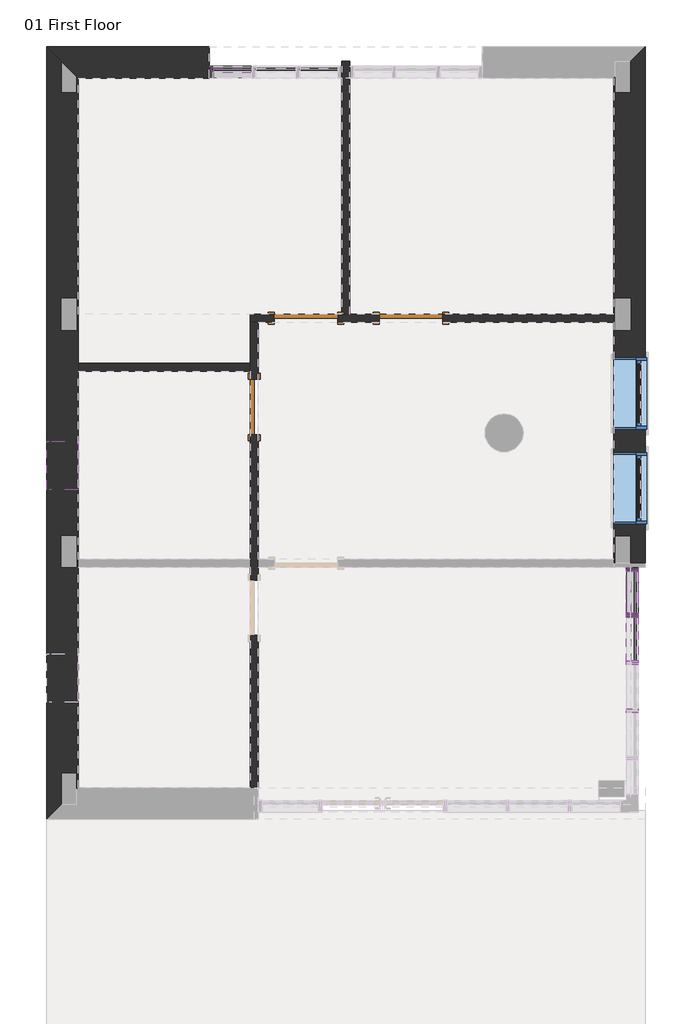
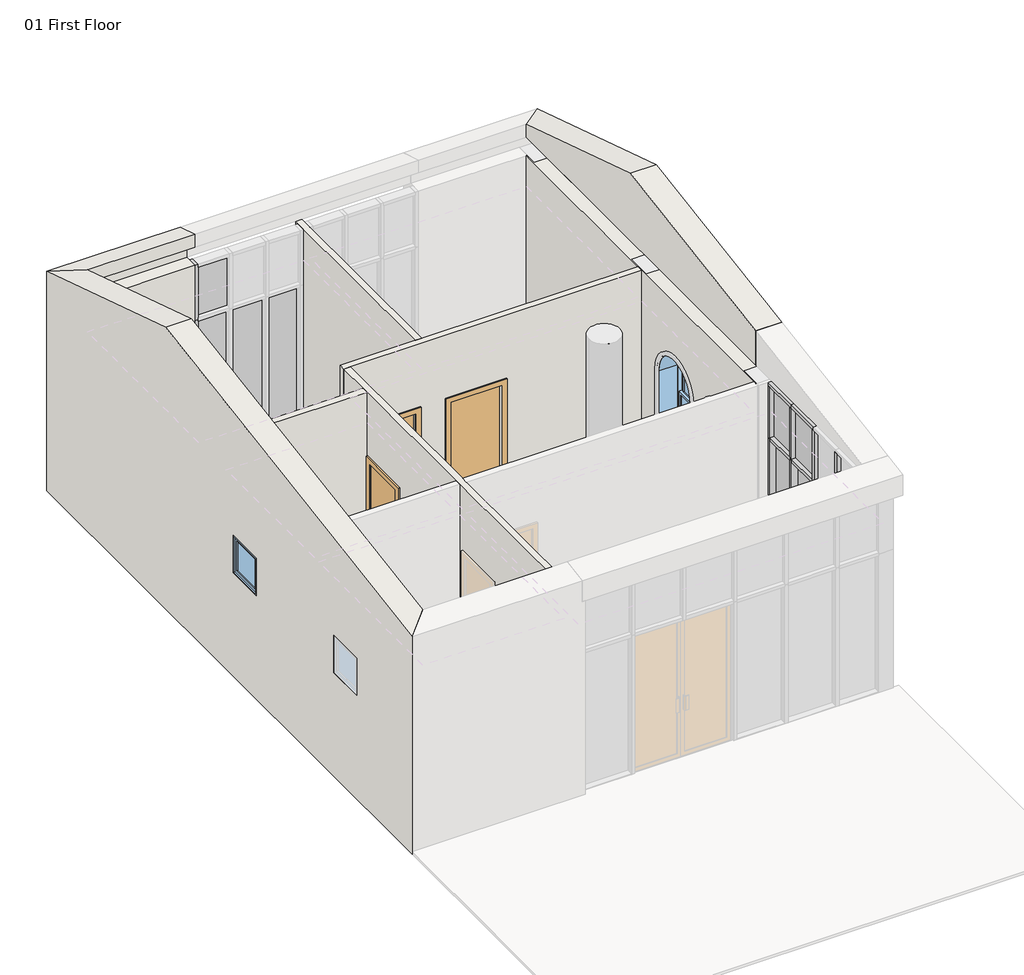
# One storey, part 2 of 3: 14 members, 8 plates, 7 walls, 3 doors, 3 windows.
"""IFC4 building model written with IfcOpenShell, lengths in millimetres."""

from ifc_helpers import new_model, si_unit, frame, origin, place, context, project, spatial, polyline, circle_curve, outline, extrude, faceted_brep, transform, mapped, element, save
from ifc_brep_helpers import plane_surface, revolved_surface, advanced_brep
from components import m_single_flush_0700_x_2100mm_23326b45, m_single_flush_0800_x_2100mm_e1c1bfab, m_single_flush_0800_x_2100mm_5931a049, rectangular_mullion_50_x_150mm_8753ce05, rectangular_mullion_50_x_150mm_f70f74d1, rectangular_mullion_50_x_150mm_f478ca5a, rectangular_mullion_50_x_150mm_324a6438, rectangular_mullion_50_x_150mm_d1e66009, rectangular_mullion_50_x_150mm_35d6a770, rectangular_mullion_50_x_150mm_7a805af3, rectangular_mullion_50_x_150mm_27f82533, rectangular_mullion_50_x_150mm_15dee4e3, rectangular_mullion_50_x_150mm_af0ba744, rectangular_mullion_50_x_150mm_731e338c, system_panel_glazed_5d80e23d, system_panel_glazed_623b0429, system_panel_glazed_a0e57360, system_panel_glazed_11854295, system_panel_solid_e171d4ab, system_panel_solid_37a388a8, system_panel_solid_d4510be5, m_fixed_0610_x_0610mm_08517cb4, m_window_double_hung_arch_head_900_x_1800mm_510cd141

model = new_model("IFC4")

# Units and contexts
model_context = context("Model", 3, world=origin())
ifc_project = project(units=[si_unit("LENGTHUNIT", "METRE", prefix="MILLI")], contexts=[model_context])

# Site, building, storey
site = spatial("IfcSite", under=ifc_project)
building = spatial("IfcBuilding", under=site)
storey = spatial("IfcBuildingStorey", under=building, Name="01 First Floor", Elevation=3500.0)

# Doors
placement = place(None, origin())
m_single_flush_0700_x_2100mm_shape = m_single_flush_0700_x_2100mm_23326b45(model_context)
element("IfcDoor", 1, ObjectType="M_Single-Flush : 0700 x 2100mm", at=placement, inside=storey, context=model_context, shape_type="MappedRepresentation", body=[
    mapped(m_single_flush_0700_x_2100mm_shape, transform((-5882.5407999, 1965.8732706, 3500.0), x_axis=(0.0, 1.0, 0.0), y_axis=(-1.0, 0.0, 0.0), z_axis=(0.0, 0.0, 1.0))),
])
m_single_flush_0800_x_2100mm_shape = m_single_flush_0800_x_2100mm_e1c1bfab(model_context)
element("IfcDoor", 2, ObjectType="M_Single-Flush : 0800 x 2100mm", at=placement, inside=storey, context=model_context, shape_type="MappedRepresentation", body=[
    mapped(m_single_flush_0800_x_2100mm_shape, transform((-3898.1036851, 3087.4461437, 3500.0), x_axis=(-0.9999999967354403, -8.080296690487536e-05, 0.0), y_axis=(8.080296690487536e-05, -0.9999999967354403, 0.0), z_axis=(0.0, 0.0, 1.0))),
])
m_single_flush_0800_x_2100mm_2_shape = m_single_flush_0800_x_2100mm_5931a049(model_context)
element("IfcDoor", 3, ObjectType="M_Single-Flush : 0800 x 2100mm", at=placement, inside=storey, context=model_context, shape_type="MappedRepresentation", body=[
    mapped(m_single_flush_0800_x_2100mm_2_shape, transform((-5227.2000094, 3087.3387487, 3500.0), x_axis=(0.9999999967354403, 8.080296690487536e-05, 0.0), y_axis=(-8.080296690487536e-05, 0.9999999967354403, 0.0), z_axis=(0.0, 0.0, 1.0))),
])

# Members
rectangular_mullion_50_x_150mm_shape = rectangular_mullion_50_x_150mm_8753ce05(model_context)
element("IfcMember", 4, ObjectType="Rectangular Mullion : 50 x 150mm", at=placement, inside=storey, context=model_context, shape_type="MappedRepresentation", body=[
    mapped(rectangular_mullion_50_x_150mm_shape, transform((-6447.5407999, 6199.2898352, 5800.0), x_axis=(-1.0, 0.0, 0.0), y_axis=(0.0, -1.0, 0.0), z_axis=(0.0, 0.0, 1.0))),
])
rectangular_mullion_50_x_150mm_2_shape = rectangular_mullion_50_x_150mm_f70f74d1(model_context)
element("IfcMember", 5, ObjectType="Rectangular Mullion : 50 x 150mm", at=placement, inside=storey, context=model_context, shape_type="MappedRepresentation", body=[
    mapped(rectangular_mullion_50_x_150mm_2_shape, transform((-1102.5407999, -666.7101649, 3500.0), x_axis=(0.0, 1.0, 0.0), y_axis=(1.0, 0.0, 0.0), z_axis=(0.0, 0.0, -1.0))),
])
element("IfcMember", 6, ObjectType="Rectangular Mullion : 50 x 150mm", at=placement, inside=storey, context=model_context, shape_type="MappedRepresentation", body=[
    mapped(rectangular_mullion_50_x_150mm_shape, transform((-1102.5407999, -62.7101648, 3500.0), x_axis=(0.0, 1.0, 0.0), y_axis=(1.0, 0.0, 0.0), z_axis=(0.0, 0.0, -1.0))),
])
rectangular_mullion_50_x_150mm_3_shape = rectangular_mullion_50_x_150mm_f478ca5a(model_context)
element("IfcMember", 7, ObjectType="Rectangular Mullion : 50 x 150mm", at=placement, inside=storey, context=model_context, shape_type="MappedRepresentation", body=[
    mapped(rectangular_mullion_50_x_150mm_3_shape, transform((-1102.5407999, -1874.7101647, 5800.0), x_axis=(0.0, 1.0, 0.0), y_axis=(1.0, 0.0, 0.0), z_axis=(0.0, 0.0, -1.0))),
])
element("IfcMember", 8, ObjectType="Rectangular Mullion : 50 x 150mm", at=placement, inside=storey, context=model_context, shape_type="MappedRepresentation", body=[
    mapped(rectangular_mullion_50_x_150mm_3_shape, transform((-1102.5407999, -1270.7101648, 5800.0), x_axis=(0.0, 1.0, 0.0), y_axis=(1.0, 0.0, 0.0), z_axis=(0.0, 0.0, -1.0))),
])
element("IfcMember", 9, ObjectType="Rectangular Mullion : 50 x 150mm", at=placement, inside=storey, context=model_context, shape_type="MappedRepresentation", body=[
    mapped(rectangular_mullion_50_x_150mm_3_shape, transform((-1102.5407999, -666.7101649, 5800.0), x_axis=(0.0, 1.0, 0.0), y_axis=(1.0, 0.0, 0.0), z_axis=(0.0, 0.0, -1.0))),
])
rectangular_mullion_50_x_150mm_4_shape = rectangular_mullion_50_x_150mm_324a6438(model_context)
element("IfcMember", 10, ObjectType="Rectangular Mullion : 50 x 150mm", at=placement, inside=storey, context=model_context, shape_type="MappedRepresentation", body=[
    mapped(rectangular_mullion_50_x_150mm_4_shape, transform((-1102.5407999, -62.7101648, 5800.0), x_axis=(0.0, 1.0, 0.0), y_axis=(1.0, 0.0, 0.0), z_axis=(0.0, 0.0, -1.0))),
])
rectangular_mullion_50_x_150mm_5_shape = rectangular_mullion_50_x_150mm_d1e66009(model_context)
element("IfcMember", 11, ObjectType="Rectangular Mullion : 50 x 150mm", at=placement, inside=storey, context=model_context, shape_type="MappedRepresentation", body=[
    mapped(rectangular_mullion_50_x_150mm_5_shape, transform((-6397.5407999, 6199.2898352, 3500.0), x_axis=(0.0, 0.0, -1.0), y_axis=(0.0, -1.0, 0.0), z_axis=(-1.0, 0.0, 0.0))),
])
rectangular_mullion_50_x_150mm_6_shape = rectangular_mullion_50_x_150mm_35d6a770(model_context)
element("IfcMember", 12, ObjectType="Rectangular Mullion : 50 x 150mm", at=placement, inside=storey, context=model_context, shape_type="MappedRepresentation", body=[
    mapped(rectangular_mullion_50_x_150mm_6_shape, transform((-6447.5407999, 6199.2898352, 6700.0), x_axis=(-1.0, 0.0, 0.0), y_axis=(0.0, -1.0, 0.0), z_axis=(0.0, 0.0, 1.0))),
])
rectangular_mullion_50_x_150mm_7_shape = rectangular_mullion_50_x_150mm_7a805af3(model_context)
element("IfcMember", 13, ObjectType="Rectangular Mullion : 50 x 150mm", at=placement, inside=storey, context=model_context, shape_type="MappedRepresentation", body=[
    mapped(rectangular_mullion_50_x_150mm_7_shape, transform((-1102.5407999, -62.7101648, 6700.0), x_axis=(0.0, 0.0, 1.0), y_axis=(1.0, 0.0, 0.0), z_axis=(0.0, 1.0, 0.0))),
])
rectangular_mullion_50_x_150mm_8_shape = rectangular_mullion_50_x_150mm_27f82533(model_context)
element("IfcMember", 14, ObjectType="Rectangular Mullion : 50 x 150mm", at=placement, inside=storey, context=model_context, shape_type="MappedRepresentation", body=[
    mapped(rectangular_mullion_50_x_150mm_8_shape, transform((-1102.5407999, -666.7101649, 6700.0), x_axis=(0.0, 0.0, 1.0), y_axis=(1.0, 0.0, 0.0), z_axis=(0.0, 1.0, 0.0))),
])
rectangular_mullion_50_x_150mm_9_shape = rectangular_mullion_50_x_150mm_15dee4e3(model_context)
element("IfcMember", 15, ObjectType="Rectangular Mullion : 50 x 150mm", at=placement, inside=storey, context=model_context, shape_type="MappedRepresentation", body=[
    mapped(rectangular_mullion_50_x_150mm_9_shape, transform((-1102.5407999, -641.7101649, 3500.0), x_axis=(0.0, 0.0, -1.0), y_axis=(1.0, 0.0, 0.0), z_axis=(0.0, -1.0, 0.0))),
])
rectangular_mullion_50_x_150mm_10_shape = rectangular_mullion_50_x_150mm_af0ba744(model_context)
element("IfcMember", 16, ObjectType="Rectangular Mullion : 50 x 150mm", at=placement, inside=storey, context=model_context, shape_type="MappedRepresentation", body=[
    mapped(rectangular_mullion_50_x_150mm_10_shape, transform((-1102.5407999, -691.7101649, 5800.0), x_axis=(0.0, 0.0, 1.0), y_axis=(1.0, 0.0, 0.0), z_axis=(0.0, 1.0, 0.0))),
])
rectangular_mullion_50_x_150mm_11_shape = rectangular_mullion_50_x_150mm_731e338c(model_context)
element("IfcMember", 17, ObjectType="Rectangular Mullion : 50 x 150mm", at=placement, inside=storey, context=model_context, shape_type="MappedRepresentation", body=[
    mapped(rectangular_mullion_50_x_150mm_11_shape, transform((-1102.5407999, -112.7101648, 5800.0), x_axis=(0.0, 0.0, 1.0), y_axis=(1.0, 0.0, 0.0), z_axis=(0.0, 1.0, 0.0))),
])

# Plates
system_panel_glazed_shape = system_panel_glazed_5d80e23d(model_context)
element("IfcPlate", 18, ObjectType="System Panel : Glazed", at=placement, inside=storey, context=model_context, shape_type="MappedRepresentation", body=[
    mapped(system_panel_glazed_shape, transform((-6155.8741332, 6199.2898352, 3550.0), x_axis=(1.0, 0.0, 0.0), y_axis=(0.0, 1.0, 0.0), z_axis=(0.0, 0.0, 1.0))),
])
element("IfcPlate", 19, ObjectType="System Panel : Glazed", at=placement, inside=storey, context=model_context, shape_type="MappedRepresentation", body=[
    mapped(system_panel_glazed_shape, transform((-5064.2074667, 6199.2898352, 3550.0), x_axis=(1.0, 0.0, 0.0), y_axis=(0.0, 1.0, 0.0), z_axis=(0.0, 0.0, 1.0))),
])
system_panel_glazed_2_shape = system_panel_glazed_623b0429(model_context)
element("IfcPlate", 20, ObjectType="System Panel : Glazed", at=placement, inside=storey, context=model_context, shape_type="MappedRepresentation", body=[
    mapped(system_panel_glazed_2_shape, transform((-5610.0407999, 6199.2898352, 3550.0), x_axis=(1.0, 0.0, 0.0), y_axis=(0.0, 1.0, 0.0), z_axis=(0.0, 0.0, 1.0))),
])
system_panel_glazed_3_shape = system_panel_glazed_a0e57360(model_context)
element("IfcPlate", 21, ObjectType="System Panel : Glazed", at=placement, inside=storey, context=model_context, shape_type="MappedRepresentation", body=[
    mapped(system_panel_glazed_3_shape, transform((-1102.5407999, -968.7101649, 3550.0), x_axis=(0.0, 1.0, 0.0), y_axis=(-1.0, 0.0, 0.0), z_axis=(0.0, 0.0, 1.0))),
])
system_panel_glazed_4_shape = system_panel_glazed_11854295(model_context)
element("IfcPlate", 22, ObjectType="System Panel : Glazed", at=placement, inside=storey, context=model_context, shape_type="MappedRepresentation", body=[
    mapped(system_panel_glazed_4_shape, transform((-1102.5407999, -377.2101649, 3550.0), x_axis=(0.0, 1.0, 0.0), y_axis=(-1.0, 0.0, 0.0), z_axis=(0.0, 0.0, 1.0))),
])
system_panel_solid_shape = system_panel_solid_e171d4ab(model_context)
element("IfcPlate", 23, ObjectType="System Panel : Solid", at=placement, inside=storey, context=model_context, shape_type="MappedRepresentation", body=[
    mapped(system_panel_solid_shape, transform((-6155.8741332, 6199.2898352, 5825.0), x_axis=(1.0, 0.0, 0.0), y_axis=(0.0, 1.0, 0.0), z_axis=(0.0, 0.0, 1.0))),
])
system_panel_solid_2_shape = system_panel_solid_37a388a8(model_context)
element("IfcPlate", 24, ObjectType="System Panel : Solid", at=placement, inside=storey, context=model_context, shape_type="MappedRepresentation", body=[
    mapped(system_panel_solid_2_shape, transform((-1102.5407999, -968.7101649, 5825.0), x_axis=(0.0, 1.0, 0.0), y_axis=(-1.0, 0.0, 0.0), z_axis=(0.0, 0.0, 1.0))),
])
system_panel_solid_3_shape = system_panel_solid_d4510be5(model_context)
element("IfcPlate", 25, ObjectType="System Panel : Solid", at=placement, inside=storey, context=model_context, shape_type="MappedRepresentation", body=[
    mapped(system_panel_solid_3_shape, transform((-1102.5407999, -377.2101649, 5825.0), x_axis=(0.0, 1.0, 0.0), y_axis=(-1.0, 0.0, 0.0), z_axis=(0.0, 0.0, 1.0))),
])

# Walls
element("IfcWall", 26, ObjectType="Exterior - Brick on CMU", at=placement, inside=storey, context=model_context, shape_type="Brep", body=[
    faceted_brep([(-8109.5407999, 6124.2898352, 7211.3913043), (-8109.5407999, 3337.2898352, 8100.0), (-8109.5407999, -2849.7101648, 7106.4671533), (-8109.5407999, -2849.7101648, 7000.0), (-8109.5407999, 6124.2898352, 7000.0), (-8109.5407999, -2849.7101648, 3500.0), (-8109.5407999, -62.7101648, 3500.0), (-8109.5407999, 37.2898352, 3500.0), (-8109.5407999, 2415.8732706, 3500.0), (-8109.5407999, 2515.8732706, 3500.0), (-8109.5407999, 6124.2898352, 3500.0), (-8109.5407999, 6124.2898352, 6700.0), (-8109.5407999, 2515.8732706, 6700.0), (-8109.5407999, 2415.8732706, 6700.0), (-8109.5407999, 37.2898352, 6700.0), (-8109.5407999, -62.7101648, 6700.0), (-8109.5407999, -2849.7101648, 6700.0), (-8109.5407999, 921.5815529, 5190.0), (-8109.5407999, 921.5815529, 5800.0), (-8109.5407999, 1531.5815529, 5800.0), (-8109.5407999, 1531.5815529, 5190.0), (-8109.5407999, -1767.7101648, 5190.0), (-8109.5407999, -1767.7101648, 5800.0), (-8109.5407999, -1157.7101648, 5800.0), (-8109.5407999, -1157.7101648, 5190.0), (-8507.5407999, 6522.2898352, 3500.0), (-8507.5407999, -3247.7101648, 3500.0), (-8507.5407999, -3247.7101648, 7042.5547445), (-8507.5407999, 3337.2898352, 8100.0), (-8507.5407999, 6522.2898352, 7084.4927536), (-8507.5407999, 921.5815529, 5800.0), (-8507.5407999, 921.5815529, 5190.0), (-8507.5407999, 1531.5815529, 5190.0), (-8507.5407999, 1531.5815529, 5800.0), (-8507.5407999, -1767.7101648, 5800.0), (-8507.5407999, -1767.7101648, 5190.0), (-8507.5407999, -1157.7101648, 5190.0), (-8507.5407999, -1157.7101648, 5800.0), (-8122.5407999, -2862.7101648, 3500.0), (-8122.5407999, -2662.7101648, 3500.0), (-8322.5407999, -2662.7101648, 3500.0), (-8322.5407999, -3062.7101648, 3500.0), (-8322.5407999, 6337.2898352, 3500.0), (-8322.5407999, 5937.2898352, 3500.0), (-8122.5407999, 5937.2898352, 3500.0), (-8122.5407999, 6137.2898352, 3500.0), (-8322.5407999, 2937.2898352, 3500.0), (-8122.5407999, 2937.2898352, 3500.0), (-8122.5407999, 3337.2898352, 3500.0), (-8322.5407999, 3337.2898352, 3500.0), (-8322.5407999, -62.7101648, 3500.0), (-8122.5407999, -62.7101648, 3500.0), (-8122.5407999, 337.2898352, 3500.0), (-8322.5407999, 337.2898352, 3500.0), (-8322.5407999, -3062.7101648, 7000.0), (-8122.5407999, -2862.7101648, 6700.0), (-8322.5407999, 6337.2898352, 7000.0), (-8122.5407999, 6137.2898352, 6700.0), (-8322.5407999, 2937.2898352, 6700.0), (-8122.5407999, 2937.2898352, 6700.0), (-8322.5407999, -2662.7101648, 6700.0), (-8322.5407999, -62.7101648, 6700.0), (-8322.5407999, 337.2898352, 6700.0), (-8322.5407999, 3337.2898352, 6700.0), (-8322.5407999, 5937.2898352, 6700.0), (-8122.5407999, 3337.2898352, 6700.0), (-8122.5407999, -62.7101648, 6700.0), (-8122.5407999, 337.2898352, 6700.0), (-8122.5407999, -2662.7101648, 6700.0), (-8122.5407999, 5937.2898352, 6700.0)], [[[0, 1, 2, 3, 4]], [[5, 6, 7, 8, 9, 10, 11, 12, 13, 14, 15, 16], [17, 18, 19, 20], [21, 22, 23, 24]], [[25, 26, 27, 28, 29], [30, 31, 32, 33], [34, 35, 36, 37]], [[10, 9, 8, 7, 6, 5, 38, 39, 40, 41, 26, 25, 42, 43, 44, 45], [46, 47, 48, 49], [50, 51, 52, 53]], [[2, 27, 26, 41, 54, 3]], [[38, 5, 16, 55]], [[25, 29, 0, 4, 56, 42]], [[10, 45, 57, 11]], [[47, 46, 58, 59]], [[60, 61, 50, 53, 62, 58, 46, 49, 63, 64, 43, 42, 56, 54, 41, 40]], [[49, 48, 65, 63]], [[54, 56, 4, 3]], [[51, 50, 61, 66]], [[53, 52, 67, 62]], [[40, 39, 68, 60]], [[44, 43, 64, 69]], [[58, 62, 67, 66, 61, 60, 68, 55, 16, 15, 14, 13, 12, 11, 57, 69, 64, 63, 65, 59]], [[27, 2, 1, 28]], [[0, 29, 28, 1]], [[18, 17, 31, 30]], [[19, 18, 30, 33]], [[20, 19, 33, 32]], [[17, 20, 32, 31]], [[22, 21, 35, 34]], [[23, 22, 34, 37]], [[24, 23, 37, 36]], [[21, 24, 36, 35]], [[48, 47, 59, 65]], [[52, 51, 66, 67]], [[39, 38, 55, 68]], [[45, 44, 69, 57]]]),
])
element("IfcWall", 27, ObjectType="Exterior - Brick on CMU", at=placement, inside=storey, context=model_context, shape_type="AdvancedBrep", body=[
    advanced_brep(
    [(-937.5407999, -12.7101648, 3500.0), (-937.5407999, 6522.2898352, 3500.0), (-937.5407999, 6522.2898352, 7084.4927536), (-937.5407999, 3337.2898352, 8100.0), (-937.5407999, -12.7101648, 7562.0437956), (-937.5407999, 2586.7898352, 5350.0), (-937.5407999, 2586.7898352, 4000.0), (-937.5407999, 1686.7898352, 4000.0), (-937.5407999, 1686.7898352, 5350.0), (-937.5407999, 1386.7898352, 5350.0), (-937.5407999, 1386.7898352, 4000.0), (-937.5407999, 486.7898352, 4000.0), (-937.5407999, 486.7898352, 5350.0), (-1335.5407999, 6124.2898352, 3500.0), (-1335.5407999, 3137.6532065, 3500.0), (-1335.5407999, 3037.6532062, 3500.0), (-1335.5407999, 37.2898352, 3500.0), (-1335.5407999, -12.7101648, 3500.0), (-1335.5407999, -12.7101648, 6700.0), (-1335.5407999, 37.2898352, 6700.0), (-1335.5407999, 3037.6532062, 6700.0), (-1335.5407999, 3137.6532065, 6700.0), (-1335.5407999, 6124.2898352, 6700.0), (-1335.5407999, 2586.7898352, 4000.0), (-1335.5407999, 2586.7898352, 5350.0), (-1335.5407999, 1686.7898352, 5350.0), (-1335.5407999, 1686.7898352, 4000.0), (-1335.5407999, 1386.7898352, 4000.0), (-1335.5407999, 1386.7898352, 5350.0), (-1335.5407999, 486.7898352, 5350.0), (-1335.5407999, 486.7898352, 4000.0), (-1335.5407999, -12.7101648, 7562.0437956), (-1335.5407999, 3337.2898352, 8100.0), (-1335.5407999, 6124.2898352, 7211.3913043), (-1335.5407999, 6124.2898352, 7000.0), (-1335.5407999, -12.7101648, 7000.0), (-1122.5407999, -12.7101648, 3500.0), (-1122.5407999, 337.2898352, 3500.0), (-1322.5407999, 337.2898352, 3500.0), (-1322.5407999, -12.7101648, 3500.0), (-1322.5407999, 6137.2898352, 3500.0), (-1322.5407999, 5937.2898352, 3500.0), (-1122.5407999, 5937.2898352, 3500.0), (-1122.5407999, 6337.2898352, 3500.0), (-1122.5407999, 2937.2898352, 3500.0), (-1122.5407999, 3337.2898352, 3500.0), (-1322.5407999, 3337.2898352, 3500.0), (-1322.5407999, 2937.2898352, 3500.0), (-1122.5407999, 5937.2898352, 6700.0), (-1122.5407999, 3337.2898352, 6700.0), (-1122.5407999, 2937.2898352, 6700.0), (-1122.5407999, 337.2898352, 6700.0), (-1122.5407999, -12.7101648, 6700.0), (-1122.5407999, -12.7101648, 7000.0), (-1122.5407999, 6337.2898352, 7000.0), (-1322.5407999, 2937.2898352, 6700.0), (-1322.5407999, 3337.2898352, 6700.0), (-1322.5407999, 337.2898352, 6700.0), (-1322.5407999, -12.7101648, 6700.0), (-1322.5407999, 5937.2898352, 6700.0), (-1322.5407999, 6137.2898352, 6700.0)],
    [
        (0, 1),
        (1, 2),
        (2, 3),
        (3, 4),
        (4, 0),
        (5, 6),
        (6, 7),
        (7, 8),
        (8, 5, circle_curve(frame((-937.5407999, 2136.7898352, 5350.0), z_axis=(-1.0, 0.0, 0.0), x_axis=(0.0, -1.0, 0.0)), 450.0)),
        (9, 10),
        (10, 11),
        (11, 12),
        (12, 9, circle_curve(frame((-937.5407999, 936.7898352, 5350.0), z_axis=(-1.0, 0.0, 0.0), x_axis=(0.0, -1.0, 0.0)), 450.0)),
        (13, 14),
        (14, 15),
        (15, 16),
        (16, 17),
        (17, 18),
        (18, 19),
        (19, 20),
        (20, 21),
        (21, 22),
        (22, 13),
        (23, 24),
        (24, 25, circle_curve(frame((-1335.5407999, 2136.7898352, 5350.0), z_axis=(1.0, 0.0, 0.0), x_axis=(0.0, -1.0, 0.0)), 450.0)),
        (25, 26),
        (26, 23),
        (27, 28),
        (28, 29, circle_curve(frame((-1335.5407999, 936.7898352, 5350.0), z_axis=(1.0, 0.0, 0.0), x_axis=(0.0, -1.0, 0.0)), 450.0)),
        (29, 30),
        (30, 27),
        (31, 32),
        (32, 33),
        (33, 34),
        (34, 35),
        (35, 31),
        (0, 36),
        (36, 37),
        (37, 38),
        (38, 39),
        (39, 17),
        (13, 40),
        (40, 41),
        (41, 42),
        (42, 43),
        (43, 1),
        (44, 45),
        (45, 46),
        (46, 47),
        (47, 44),
        (42, 48),
        (48, 49),
        (49, 45),
        (44, 50),
        (50, 51),
        (51, 37),
        (36, 52),
        (52, 53),
        (53, 54),
        (54, 43),
        (47, 55),
        (55, 50),
        (46, 56),
        (56, 55),
        (49, 56),
        (53, 35),
        (34, 54),
        (38, 57),
        (57, 58),
        (58, 39),
        (51, 57),
        (41, 59),
        (59, 48),
        (40, 60),
        (60, 59),
        (33, 2),
        (22, 60),
        (18, 58),
        (4, 31),
        (3, 32),
        (5, 24),
        (23, 6),
        (26, 7),
        (25, 8),
        (9, 28),
        (27, 10),
        (30, 11),
        (29, 12),
    ],
    [
        plane_surface(frame((-937.5407999, 5.3142246, 3500.0), z_axis=(1.0, 0.0, 0.0), x_axis=(0.0, 1.0, 0.0))),
        plane_surface(frame((-1335.5407999, 5.3142246, 3500.0), z_axis=(-1.0, 0.0, 0.0), x_axis=(0.0, -1.0, 0.0))),
        plane_surface(frame((-937.5407999, -12.7101648, 3500.0), z_axis=(0.0, 0.0, -1.0), x_axis=(-1.0, 0.0, 0.0))),
        plane_surface(frame((-1122.5407999, 2937.2898352, 7000.0), z_axis=(-1.0, 0.0, 0.0), x_axis=(0.0, 0.0, -1.0))),
        plane_surface(frame((-1322.5407999, 2937.2898352, 7000.0), z_axis=(0.0, 1.0, 0.0), x_axis=(0.0, 0.0, -1.0))),
        plane_surface(frame((-1322.5407999, 3337.2898352, 7000.0), z_axis=(1.0, 0.0, 0.0), x_axis=(0.0, 0.0, -1.0))),
        plane_surface(frame((-1122.5407999, 3337.2898352, 7000.0), z_axis=(0.0, -1.0, 0.0), x_axis=(0.0, 0.0, -1.0))),
        plane_surface(frame((-1322.5407999, 3337.2898352, 7000.0), z_axis=(0.0, 0.0, -1.0), x_axis=(-1.0, 0.0, 0.0))),
        plane_surface(frame((-1322.5407999, 337.2898352, 7000.0), z_axis=(1.0, 0.0, 0.0), x_axis=(0.0, 0.0, -1.0))),
        plane_surface(frame((-1122.5407999, 337.2898352, 7000.0), z_axis=(0.0, -1.0, 0.0), x_axis=(0.0, 0.0, -1.0))),
        plane_surface(frame((-1322.5407999, 5937.2898352, 7000.0), z_axis=(0.0, 1.0, 0.0), x_axis=(0.0, 0.0, -1.0))),
        plane_surface(frame((-1322.5407999, 6337.2898352, 7000.0), z_axis=(1.0, 0.0, 0.0), x_axis=(0.0, 0.0, -1.0))),
        plane_surface(frame((-937.5407999, 6522.2898352, 3500.0), z_axis=(-0.7071067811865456, 0.7071067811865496, 0.0), x_axis=(-0.7071067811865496, -0.7071067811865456, 0.0))),
        plane_surface(frame((4877.4592001, 6337.2898352, 6700.0), z_axis=(0.0, 0.0, 1.0), x_axis=(1.0, 0.0, 0.0))),
        plane_surface(frame((-937.5407999, -12.7101648, 7000.0), z_axis=(0.0, -1.0, 0.0), x_axis=(-1.0, 0.0, 0.0))),
        plane_surface(frame((-672.5407999, -3512.7101648, 7000.0), z_axis=(0.0, -0.1585526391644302, 0.9873505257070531), x_axis=(1.0, 0.0, 0.0))),
        plane_surface(frame((-8787.5407999, 6787.2898352, 7000.0), z_axis=(0.0, 0.30377353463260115, 0.9527442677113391), x_axis=(-1.0, 0.0, 0.0))),
        plane_surface(frame((-937.5407999, 2586.7898352, 5350.0), z_axis=(0.0, -1.0, 0.0), x_axis=(-1.0, 0.0, 0.0))),
        plane_surface(frame((-937.5407999, 2586.7898352, 4000.0), z_axis=(0.0, 0.0, 1.0), x_axis=(-1.0, 0.0, 0.0))),
        plane_surface(frame((-937.5407999, 1686.7898352, 4000.0), z_axis=(0.0, 1.0, 0.0), x_axis=(-1.0, 0.0, 0.0))),
        plane_surface(frame((-937.5407999, 1386.7898352, 5350.0), z_axis=(0.0, -1.0, 0.0), x_axis=(-1.0, 0.0, 0.0))),
        plane_surface(frame((-937.5407999, 1386.7898352, 4000.0), z_axis=(0.0, 0.0, 1.0), x_axis=(-1.0, 0.0, 0.0))),
        plane_surface(frame((-937.5407999, 486.7898352, 4000.0), z_axis=(0.0, 1.0, 0.0), x_axis=(-1.0, 0.0, 0.0))),
        revolved_surface(polyline([(-1335.5407999, 486.78983519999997, 5350.0), (-937.5407999, 486.78983519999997, 5350.0)]), (-1335.5407999, 936.7898352, 5350.0), (-1.0, 0.0, 0.0)),
        revolved_surface(polyline([(-1335.5407999, 1686.7898352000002, 5350.0), (-937.5407999, 1686.7898352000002, 5350.0)]), (-1335.5407999, 2136.7898352, 5350.0), (-1.0, 0.0, 0.0)),
    ],
    [
        (0, [[1, 2, 3, 4, 5], [6, 7, 8, 9], [10, 11, 12, 13]]),
        (1, [[14, 15, 16, 17, 18, 19, 20, 21, 22, 23], [24, 25, 26, 27], [28, 29, 30, 31]]),
        (1, [[32, 33, 34, 35, 36]]),
        (2, [[-1, 37, 38, 39, 40, 41, -17, -16, -15, -14, 42, 43, 44, 45, 46], [47, 48, 49, 50]]),
        (3, [[-45, 51, 52, 53, -47, 54, 55, 56, -38, 57, 58, 59, 60]]),
        (4, [[-50, 61, 62, -54]]),
        (5, [[-49, 63, 64, -61]]),
        (6, [[-48, -53, 65, -63]]),
        (7, [[-59, 66, -35, 67]]),
        (8, [[-40, 68, 69, 70]]),
        (9, [[-39, -56, 71, -68]]),
        (10, [[-44, 72, 73, -51]]),
        (11, [[-43, 74, 75, -72]]),
        (12, [[-2, -46, -60, -67, -34, 76]]),
        (12, [[-42, -23, 77, -74]]),
        (13, [[-55, -62, -64, -65, -52, -73, -75, -77, -22, -21, -20, -19, 78, -69, -71]]),
        (14, [[79, -36, -66, -58, -57, -37, -5]]),
        (14, [[-41, -70, -78, -18]]),
        (15, [[-79, -4, 80, -32]]),
        (16, [[-76, -33, -80, -3]]),
        (17, [[-6, 81, -24, 82]]),
        (18, [[-7, -82, -27, 83]]),
        (19, [[-8, -83, -26, 84]]),
        (20, [[-10, 85, -28, 86]]),
        (21, [[-11, -86, -31, 87]]),
        (22, [[-12, -87, -30, 88]]),
        (23, [[-13, -88, -29, -85]]),
        (24, [[-9, -84, -25, -81]]),
    ],
),
])
element("IfcWall", 28, ObjectType="Exterior - Brick on CMU", at=placement, inside=storey, context=model_context, shape_type="Brep", body=[
    faceted_brep([(-8109.5407999, 6124.2898352, 3500.0), (-6447.5407999, 6124.2898352, 3500.0), (-6447.5407999, 6124.2898352, 6700.0), (-8109.5407999, 6124.2898352, 6700.0), (-6447.5407999, 6124.2898352, 7211.3913043), (-8109.5407999, 6124.2898352, 7211.3913043), (-8109.5407999, 6124.2898352, 7000.0), (-6447.5407999, 6124.2898352, 7000.0), (-6447.5407999, 6522.2898352, 3500.0), (-8507.5407999, 6522.2898352, 3500.0), (-8507.5407999, 6522.2898352, 7084.4927536), (-6447.5407999, 6522.2898352, 7084.4927536), (-6447.5407999, 6522.2898352, 6700.0), (-8122.5407999, 6137.2898352, 3500.0), (-8322.5407999, 6337.2898352, 3500.0), (-6447.5407999, 6337.2898352, 7000.0), (-6447.5407999, 6337.2898352, 6700.0), (-8122.5407999, 6137.2898352, 6700.0), (-8322.5407999, 6337.2898352, 6700.0), (-8322.5407999, 6337.2898352, 7000.0)], [[[0, 1, 2, 3]], [[4, 5, 6, 7]], [[8, 9, 10, 11, 12]], [[1, 0, 13, 14, 9, 8]], [[8, 12, 11, 4, 7, 15, 16, 2, 1]], [[10, 9, 14, 13, 0, 3, 17, 18, 19, 6, 5]], [[16, 18, 17, 3, 2]], [[19, 15, 7, 6]], [[18, 16, 15, 19]], [[5, 4, 11, 10]]]),
])
element("IfcWall", 29, ObjectType="Generic - 100mm", at=placement, inside=storey, context=model_context, shape_type="SweptSolid", body=[
    extrude(outline(polyline([(-5932.5407999, 2415.8732706), (-8109.5407999, 2415.8732706), (-8109.5407999, 2515.8732706), (-5932.5407999, 2515.8732706), (-5932.5407999, 2415.8732706)])), frame((0.0, 0.0, 3500.0), z_axis=(0.0, 0.0, 1.0), x_axis=(1.0, 0.0, 0.0)), (0.0, 0.0, 1.0), 3200.0),
])
element("IfcWall", 30, ObjectType="Generic - 100mm", at=placement, inside=storey, context=model_context, shape_type="SweptSolid", body=[
    extrude(outline(polyline([(-4772.5407999, 3137.3754867), (-4772.5407999, 6337.2898352), (-4672.5407999, 6337.2898352), (-4672.5407999, 3137.383567), (-4772.5407999, 3137.3754867)])), frame((0.0, 0.0, 3500.0), z_axis=(0.0, 0.0, 1.0), x_axis=(1.0, 0.0, 0.0)), (0.0, 0.0, 1.0), 3200.0),
])
element("IfcWall", 31, ObjectType="Generic - 100mm", at=placement, inside=storey, context=model_context, shape_type="Brep", body=[
    faceted_brep([(-4298.1077239, 3137.4138223, 5600.0), (-4298.1077239, 3137.4138223, 3500.0), (-4672.5407999, 3137.383567, 3500.0), (-4772.5407999, 3137.3754867, 3500.0), (-4827.2040508, 3137.3710698, 3500.0), (-4827.2040508, 3137.3710698, 5600.0), (-5627.2040482, 3137.3064274, 5600.0), (-5627.2040482, 3137.3064274, 3500.0), (-5932.5407999, 3137.2817553, 3500.0), (-5932.5407999, 3137.2817553, 6700.0), (-4772.5407999, 3137.3754867, 6700.0), (-4672.5407999, 3137.383567, 6700.0), (-1335.5407999, 3137.6532065, 6700.0), (-1335.5407999, 3137.6532065, 3500.0), (-3498.1077265, 3137.4784647, 3500.0), (-3498.1077265, 3137.4784647, 5600.0), (-4827.1959705, 3037.3710701, 3500.0), (-4298.0996436, 3037.4138226, 3500.0), (-4298.0996436, 3037.4138226, 5600.0), (-3498.0996462, 3037.478465, 5600.0), (-3498.0996462, 3037.478465, 3500.0), (-1335.5407999, 3037.6532062, 3500.0), (-1335.5407999, 3037.6532062, 6700.0), (-5832.5407999, 3037.2898352, 6700.0), (-5932.5407999, 3037.2817549, 6700.0), (-5932.5407999, 3037.2817549, 3500.0), (-5832.5407999, 3037.2898352, 3500.0), (-5627.1959679, 3037.3064277, 3500.0), (-5627.1959679, 3037.3064277, 5600.0), (-4827.1959705, 3037.3710701, 5600.0)], [[[0, 1, 2, 3, 4, 5, 6, 7, 8, 9, 10, 11, 12, 13, 14, 15]], [[16, 17, 18, 19, 20, 21, 22, 23, 24, 25, 26, 27, 28, 29]], [[27, 26, 25, 8, 7]], [[14, 13, 21, 20]], [[4, 3, 2, 1, 17, 16]], [[13, 12, 22, 21]], [[9, 8, 25, 24]], [[12, 11, 10, 9, 24, 23, 22]], [[5, 4, 16, 29]], [[6, 5, 29, 28]], [[7, 6, 28, 27]], [[18, 17, 1, 0]], [[19, 18, 0, 15]], [[20, 19, 15, 14]]]),
])
element("IfcWall", 32, ObjectType="Generic - 100mm", at=placement, inside=storey, context=model_context, shape_type="Brep", body=[
    faceted_brep([(-5932.5407999, 1615.8732706, 3500.0), (-5932.5407999, 37.2898352, 3500.0), (-5932.5407999, -62.7101648, 3500.0), (-5932.5407999, -224.1267294, 3500.0), (-5932.5407999, -224.1267294, 5600.0), (-5932.5407999, -924.1267294, 5600.0), (-5932.5407999, -924.1267294, 3500.0), (-5932.5407999, -2849.7101648, 3500.0), (-5932.5407999, -2849.7101648, 6700.0), (-5932.5407999, -62.7101648, 6700.0), (-5932.5407999, 37.2898352, 6700.0), (-5932.5407999, 2415.8732706, 6700.0), (-5932.5407999, 2515.8732706, 6700.0), (-5932.5407999, 3037.2817549, 6700.0), (-5932.5407999, 3037.2817549, 3500.0), (-5932.5407999, 2515.8732706, 3500.0), (-5932.5407999, 2415.8732706, 3500.0), (-5932.5407999, 2315.8732706, 3500.0), (-5932.5407999, 2315.8732706, 5600.0), (-5932.5407999, 1615.8732706, 5600.0), (-5832.5407999, -224.1267294, 5600.0), (-5832.5407999, -224.1267294, 3500.0), (-5832.5407999, -62.7101648, 3500.0), (-5832.5407999, 37.2898352, 3500.0), (-5832.5407999, 1615.8732706, 3500.0), (-5832.5407999, 1615.8732706, 5600.0), (-5832.5407999, 2315.8732706, 5600.0), (-5832.5407999, 2315.8732706, 3500.0), (-5832.5407999, 3037.2898352, 3500.0), (-5832.5407999, 3037.2898352, 6700.0), (-5832.5407999, 37.2898352, 6700.0), (-5832.5407999, -62.7101648, 6700.0), (-5832.5407999, -2849.7101648, 6700.0), (-5832.5407999, -2849.7101648, 3500.0), (-5832.5407999, -924.1267294, 3500.0), (-5832.5407999, -924.1267294, 5600.0)], [[[0, 1, 2, 3, 4, 5, 6, 7, 8, 9, 10, 11, 12, 13, 14, 15, 16, 17, 18, 19]], [[20, 21, 22, 23, 24, 25, 26, 27, 28, 29, 30, 31, 32, 33, 34, 35]], [[28, 27, 17, 16, 15, 14]], [[34, 33, 7, 6]], [[24, 23, 22, 21, 3, 2, 1, 0]], [[14, 13, 29, 28]], [[8, 7, 33, 32]], [[13, 12, 11, 10, 9, 8, 32, 31, 30, 29]], [[18, 17, 27, 26]], [[19, 18, 26, 25]], [[0, 19, 25, 24]], [[4, 3, 21, 20]], [[5, 4, 20, 35]], [[6, 5, 35, 34]]]),
])

# Windows
m_fixed_0610_x_0610mm_shape = m_fixed_0610_x_0610mm_08517cb4(model_context)
element("IfcWindow", 33, ObjectType="M_Fixed : 0610 x 0610mm", at=placement, inside=storey, context=model_context, shape_type="MappedRepresentation", body=[
    mapped(m_fixed_0610_x_0610mm_shape, transform((-8295.5407999, 1226.5815529, 4275.0), x_axis=(0.0, 1.0, 0.0), y_axis=(-1.0, 0.0, 0.0), z_axis=(0.0, 0.0, 1.0))),
])
m_window_double_hung_arch_head_900_x_1800mm_shape = m_window_double_hung_arch_head_900_x_1800mm_510cd141(model_context)
element("IfcWindow", 34, ObjectType="M_Window-Double-Hung-Arch-Head : 900 x 1800mm", at=placement, inside=storey, context=model_context, shape_type="MappedRepresentation", body=[
    mapped(m_window_double_hung_arch_head_900_x_1800mm_shape, transform((-1136.5407999, 2136.7898352, 3085.6), x_axis=(0.0, -1.0, 0.0), y_axis=(1.0, 0.0, 0.0), z_axis=(0.0, 0.0, 1.0))),
])
element("IfcWindow", 35, ObjectType="M_Window-Double-Hung-Arch-Head : 900 x 1800mm", at=placement, inside=storey, context=model_context, shape_type="MappedRepresentation", body=[
    mapped(m_window_double_hung_arch_head_900_x_1800mm_shape, transform((-1136.5407999, 936.7898352, 3085.6), x_axis=(0.0, -1.0, 0.0), y_axis=(1.0, 0.0, 0.0), z_axis=(0.0, 0.0, 1.0))),
])

save(model, "model.ifc")
